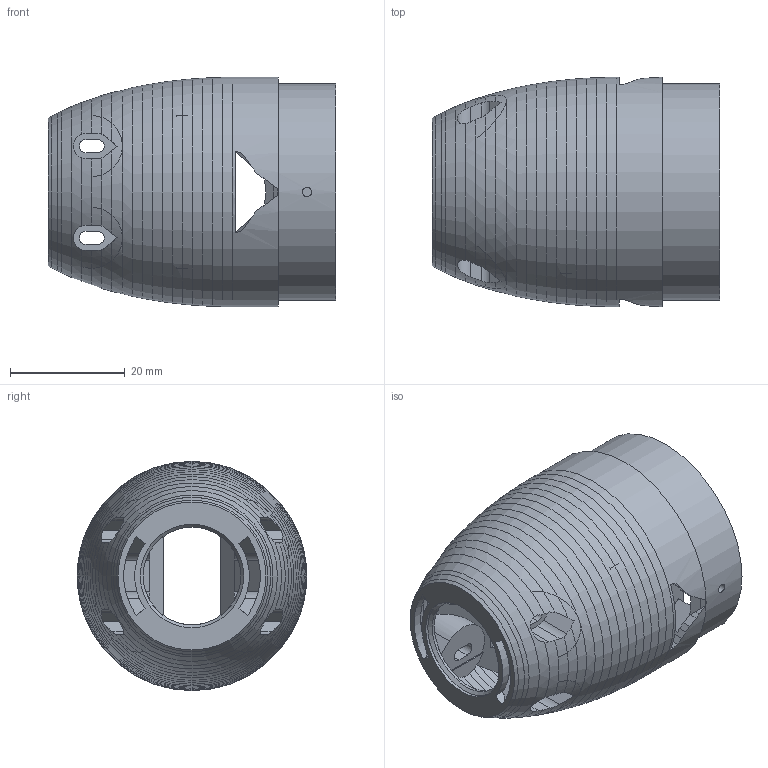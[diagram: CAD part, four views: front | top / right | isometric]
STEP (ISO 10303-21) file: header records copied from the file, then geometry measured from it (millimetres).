
FILE_DESCRIPTION(('SkyG Speed 90B - revision C6B-2 - 2026-10-08','N0O-nose-dji-o4'),'2;1');
FILE_NAME('N0O-nose-dji-o4_C6B-2','2026-10-08T01:12:37',('Author'),( 'Open CASCADE'),'Open CASCADE STEP processor 7.9','Open CASCADE 7.9' ,'Unknown');
FILE_SCHEMA(('AUTOMOTIVE_DESIGN { 1 0 10303 214 1 1 1 1 }'));
Length unit declared in the file: millimetre
Products named in the file (1): N0O-nose-dji-o4 C6B-2
Bounding box: 50.1 x 40 x 40 mm (x, y, z)
Volume: 25496.7 mm3; surface area: 15664.6 mm2
Topology: 1 solids, 1 shells, 363 faces, 1048 edges, 681 vertices
Faces by surface type: plane 195, cone 93, cylinder 49, bspline 26
Full cylindrical faces by diameter (mm): 1.6 x2, 17.04 x1, 18.046 x1, 33.8 x1, 37.7 x1, 40 x1
Entity records: 29944 total; most frequent: CARTESIAN_POINT 10854, DIRECTION 3069, ORIENTED_EDGE 2096, PCURVE 2096, DEFINITIONAL_REPRESENTATION 2096, LINE 1453, VECTOR 1453, B_SPLINE_CURVE_WITH_KNOTS 1054
